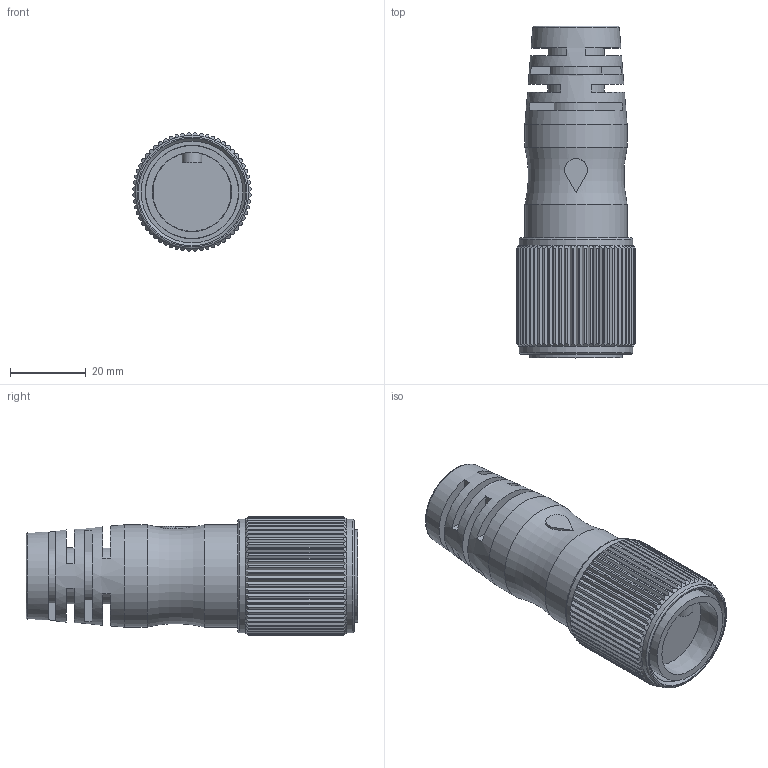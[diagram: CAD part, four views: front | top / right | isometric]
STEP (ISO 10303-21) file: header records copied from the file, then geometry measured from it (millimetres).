
FILE_DESCRIPTION(/* description */ (''),/* implementation_level */ '2;1');
FILE_NAME(/* name */ 'L:\CAD Inventor\Workspace\Catalogs\CATALOG-TURCK CONNECTORS\RYM-CSIZE.stp',/* time_stamp */ '2021-06-29T10:19:29-05:00',/* author */ ('RSwans'),/* organization */ (''),/* preprocessor_version */ 'ST-DEVELOPER v16.5',/* originating_system */ 'Autodesk Inventor 2017',/* authorisation */ '');
FILE_SCHEMA (('AUTOMOTIVE_DESIGN { 1 0 10303 214 3 1 1 }'));
Length unit declared in the file: millimetre
Products named in the file (1): Part6
Bounding box: 31.48 x 87.7 x 31.48 mm (x, y, z)
Volume: 38124.6 mm3; surface area: 19174.8 mm2
Topology: 3 solids, 3 shells, 426 faces, 1202 edges, 791 vertices
Faces by surface type: plane 221, cylinder 180, cone 15, torus 8, bspline 2
Full cylindrical faces by diameter (mm): 15 x1, 21 x2, 24.55 x1, 24.65 x1, 26.85 x1, 27 x2, 29 x3, 30 x2
Entity records: 14904 total; most frequent: CARTESIAN_POINT 4293, ORIENTED_EDGE 2322, DIRECTION 1986, EDGE_CURVE 1161, AXIS2_PLACEMENT_3D 786, VERTEX_POINT 782, EDGE_LOOP 469, FACE_OUTER_BOUND 425
